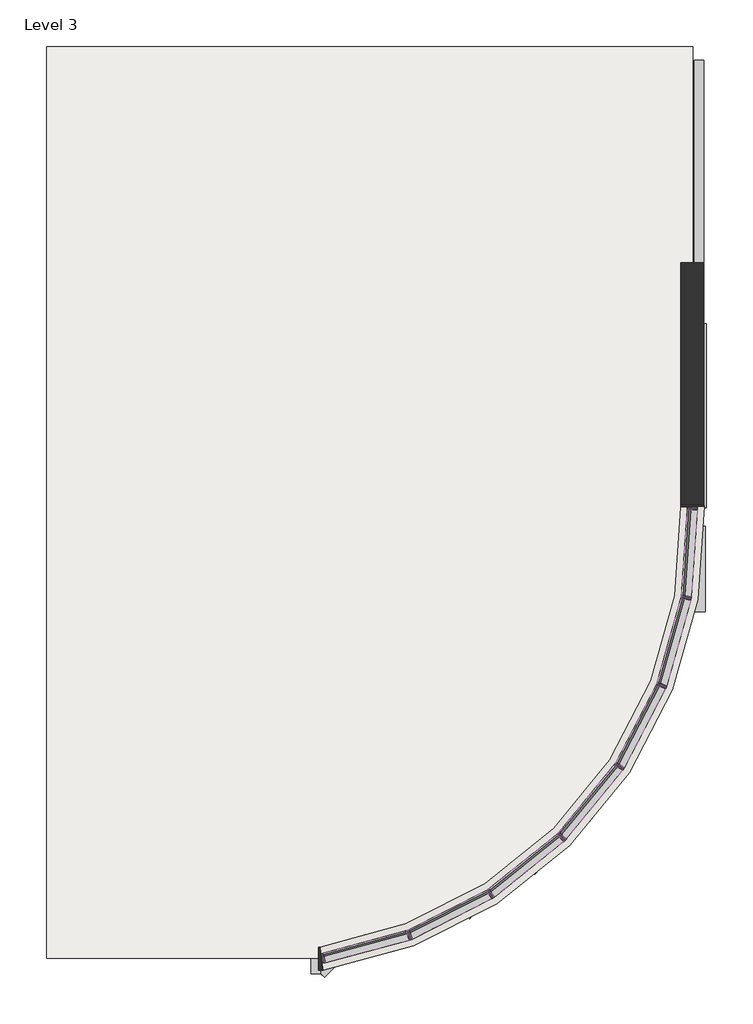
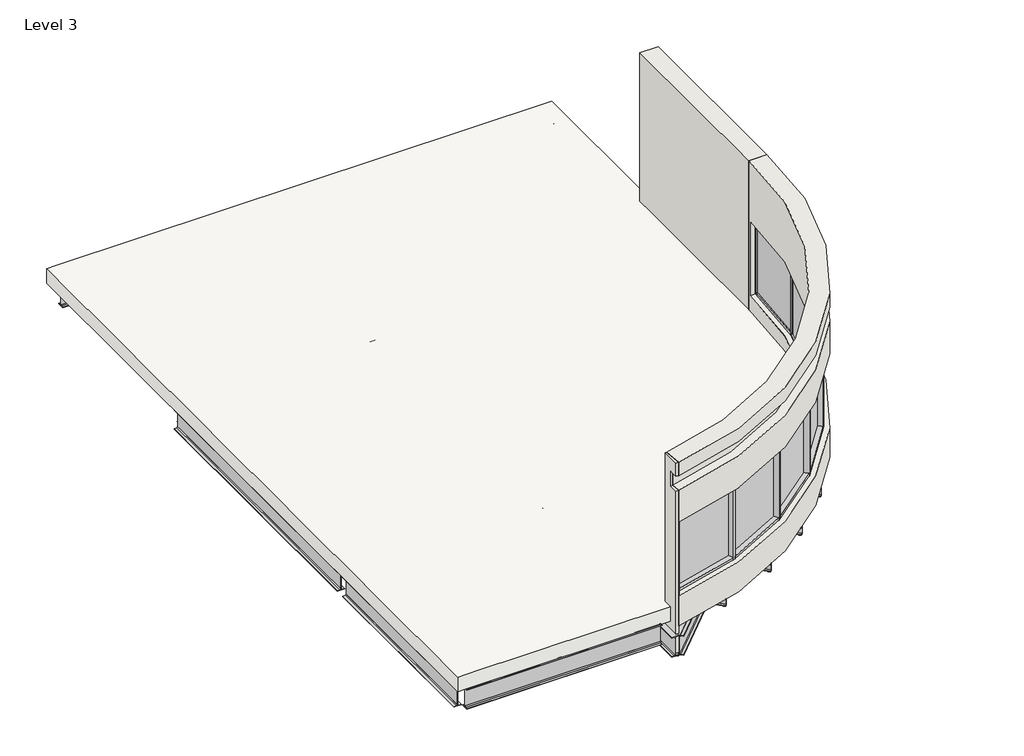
# One storey, incomplete: 22 beams, 22 members, 7 plates, 3 walls, 1 roof.
"""IFC4 building model written with IfcOpenShell, lengths in millimetres."""

from ifc_helpers import new_model, si_unit, frame, origin, place, context, project, spatial, polyline, circle_curve, faceted_brep, transform, mapped, element, save
from ifc_brep_helpers import plane_surface, cylinder_surface, revolved_surface, advanced_brep
from components import c_channel_c6x8_2_cf8d55a1, c_channel_c6x8_2_52b4a7a8, c_channel_c6x8_2_4cab7d2d, c_channel_c6x8_2_ec91256f, c_channel_c6x8_2_3719a647, c_channel_c6x8_2_7d483b76, w_wide_flange_w16x26_a72f614c, w_wide_flange_w16x26_9c3d3023, w_wide_flange_w16x26_148a8972, w_wide_flange_w16x26_0c83cf25, w_wide_flange_w16x26_0b9ed303, w_wide_flange_w16x26_0532e526, w_wide_flange_w16x26_7b0e4888, w_wide_flange_w16x26_9456430b, w_wide_flange_w16x26_394d27fb, w_wide_flange_w16x26_6db211b0, w_wide_flange_w24x68_473e50b6, w_wide_flange_w24x68_1052d64c, rectangular_mullion_50_x_150mm_8a6e4913, rectangular_mullion_50_x_150mm_e3e87f6c, rectangular_mullion_50_x_150mm_af4d71e1, rectangular_mullion_50_x_150mm_40297ad3, rectangular_mullion_50_x_150mm_4d330a12, system_panel_glazed_e4ec4e41, system_panel_glazed_5906122b

model = new_model("IFC4")

# Units and contexts
model_context = context("Model", 3, world=origin())
ifc_project = project(units=[si_unit("LENGTHUNIT", "METRE", prefix="MILLI")], contexts=[model_context])

# Site, building, storey
site = spatial("IfcSite", under=ifc_project)
building = spatial("IfcBuilding", under=site)
storey = spatial("IfcBuildingStorey", under=building, Name="Level 3", Elevation=53035.0)

# Beams
placement = place(None, origin())
c_channel_c6x8_2_shape = c_channel_c6x8_2_cf8d55a1(model_context)
element("IfcBeam", 1, ObjectType="C-Channel : C6X8.2", at=placement, inside=storey, context=model_context, shape_type="MappedRepresentation", body=[
    mapped(c_channel_c6x8_2_shape, transform((-5213.4523008, 1924.378114, 52958.8), x_axis=(0.7071067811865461, -0.7071067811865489, 0.0), y_axis=(0.7071067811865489, 0.7071067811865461, 0.0), z_axis=(0.0, 0.0, 1.0))),
])
c_channel_c6x8_2_2_shape = c_channel_c6x8_2_52b4a7a8(model_context)
element("IfcBeam", 2, ObjectType="C-Channel : C6X8.2", at=placement, inside=storey, context=model_context, shape_type="MappedRepresentation", body=[
    mapped(c_channel_c6x8_2_2_shape, transform((-9397.6765056, -2163.1833658, 52958.8), x_axis=(0.7071067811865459, -0.7071067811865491, 0.0), y_axis=(0.7071067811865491, 0.7071067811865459, 0.0), z_axis=(0.0, 0.0, 1.0))),
])
c_channel_c6x8_2_3_shape = c_channel_c6x8_2_4cab7d2d(model_context)
element("IfcBeam", 3, ObjectType="C-Channel : C6X8.2", at=placement, inside=storey, context=model_context, shape_type="MappedRepresentation", body=[
    mapped(c_channel_c6x8_2_3_shape, transform((-8326.2701207, 74.1245232, 52958.8), x_axis=(0.707106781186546, -0.707106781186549, 0.0), y_axis=(0.707106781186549, 0.707106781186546, 0.0), z_axis=(0.0, 0.0, 1.0))),
])
c_channel_c6x8_2_4_shape = c_channel_c6x8_2_ec91256f(model_context)
element("IfcBeam", 4, ObjectType="C-Channel : C6X8.2", at=placement, inside=storey, context=model_context, shape_type="MappedRepresentation", body=[
    mapped(c_channel_c6x8_2_4_shape, transform((-7491.7530218, 893.9645612, 52958.8), x_axis=(0.7071067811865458, -0.7071067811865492, 0.0), y_axis=(0.7071067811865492, 0.7071067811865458, 0.0), z_axis=(0.0, 0.0, 1.0))),
])
c_channel_c6x8_2_5_shape = c_channel_c6x8_2_3719a647(model_context)
element("IfcBeam", 5, ObjectType="C-Channel : C6X8.2", at=placement, inside=storey, context=model_context, shape_type="MappedRepresentation", body=[
    mapped(c_channel_c6x8_2_5_shape, transform((-6314.2389485, 1371.0374918, 52958.8), x_axis=(0.7071067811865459, -0.7071067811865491, 0.0), y_axis=(0.7071067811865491, 0.7071067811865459, 0.0), z_axis=(0.0, 0.0, 1.0))),
])
c_channel_c6x8_2_6_shape = c_channel_c6x8_2_7d483b76(model_context)
element("IfcBeam", 6, ObjectType="C-Channel : C6X8.2", at=placement, inside=storey, context=model_context, shape_type="MappedRepresentation", body=[
    mapped(c_channel_c6x8_2_6_shape, transform((-8818.0127286, -1088.4900059, 52958.8), x_axis=(0.707106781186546, -0.707106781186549, 0.0), y_axis=(0.707106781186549, 0.707106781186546, 0.0), z_axis=(0.0, 0.0, 1.0))),
])
w_wide_flange_w16x26_shape = w_wide_flange_w16x26_a72f614c(model_context)
element("IfcBeam", 7, ObjectType="W-Wide Flange : W16X26", at=placement, inside=storey, context=model_context, shape_type="MappedRepresentation", body=[
    mapped(w_wide_flange_w16x26_shape, transform((-7101.4313072, 2571.4992317, 52683.3191406), x_axis=(1.0, 0.0, 0.0), y_axis=(0.0, 1.0, 0.0), z_axis=(0.0, 0.0, 1.0))),
])
w_wide_flange_w16x26_2_shape = w_wide_flange_w16x26_9c3d3023(model_context)
element("IfcBeam", 8, ObjectType="W-Wide Flange : W16X26", at=placement, inside=storey, context=model_context, shape_type="MappedRepresentation", body=[
    mapped(w_wide_flange_w16x26_2_shape, transform((-9997.0313072, -1036.8683828, 52683.3191406), x_axis=(0.0, 1.0, 0.0), y_axis=(-1.0, 0.0, 0.0), z_axis=(0.0, 0.0, 1.0))),
])
w_wide_flange_w16x26_3_shape = w_wide_flange_w16x26_148a8972(model_context)
element("IfcBeam", 9, ObjectType="W-Wide Flange : W16X26", at=placement, inside=storey, context=model_context, shape_type="MappedRepresentation", body=[
    mapped(w_wide_flange_w16x26_3_shape, transform((-9997.0313072, 3981.9445582, 52683.3191406), x_axis=(0.0, 1.0, 0.0), y_axis=(-1.0, 0.0, 0.0), z_axis=(0.0, 0.0, 1.0))),
])
element("IfcBeam", 10, ObjectType="W-Wide Flange : W16X26", at=placement, inside=storey, context=model_context, shape_type="MappedRepresentation", body=[
    mapped(w_wide_flange_w16x26_3_shape, transform((-13959.4313072, 3981.9445582, 52772.2191406), x_axis=(0.0, 1.0, 0.0), y_axis=(-1.0, 0.0, 0.0), z_axis=(0.0, 0.0, 1.0))),
])
w_wide_flange_w16x26_4_shape = w_wide_flange_w16x26_0c83cf25(model_context)
element("IfcBeam", 11, ObjectType="W-Wide Flange : W16X26", at=placement, inside=storey, context=model_context, shape_type="MappedRepresentation", body=[
    mapped(w_wide_flange_w16x26_4_shape, transform((-9997.0313072, 8810.2376138, 52772.2191406), x_axis=(0.0, 1.0, 0.0), y_axis=(-1.0, 0.0, 0.0), z_axis=(0.0, 0.0, 1.0))),
])
element("IfcBeam", 12, ObjectType="W-Wide Flange : W16X26", at=placement, inside=storey, context=model_context, shape_type="MappedRepresentation", body=[
    mapped(w_wide_flange_w16x26_4_shape, transform((-4186.2521405, 8810.2376138, 52772.2191406), x_axis=(0.0, 1.0, 0.0), y_axis=(-1.0, 0.0, 0.0), z_axis=(0.0, 0.0, 1.0))),
])
w_wide_flange_w16x26_5_shape = w_wide_flange_w16x26_0b9ed303(model_context)
element("IfcBeam", 13, ObjectType="W-Wide Flange : W16X26", at=placement, inside=storey, context=model_context, shape_type="MappedRepresentation", body=[
    mapped(w_wide_flange_w16x26_5_shape, transform((-13959.4313072, -812.3054418, 52772.2191406), x_axis=(0.0, 1.0, 0.0), y_axis=(-1.0, 0.0, 0.0), z_axis=(0.0, 0.0, 1.0))),
])
w_wide_flange_w16x26_6_shape = w_wide_flange_w16x26_0532e526(model_context)
element("IfcBeam", 14, ObjectType="W-Wide Flange : W16X26", at=placement, inside=storey, context=model_context, shape_type="MappedRepresentation", body=[
    mapped(w_wide_flange_w16x26_6_shape, transform((-11978.2313072, -2770.5748862, 52772.2191406), x_axis=(1.0, 0.0, 0.0), y_axis=(0.0, 1.0, 0.0), z_axis=(0.0, 0.0, 1.0))),
])
w_wide_flange_w16x26_7_shape = w_wide_flange_w16x26_7b0e4888(model_context)
element("IfcBeam", 15, ObjectType="W-Wide Flange : W16X26", at=placement, inside=storey, context=model_context, shape_type="MappedRepresentation", body=[
    mapped(w_wide_flange_w16x26_7_shape, transform((-11978.2313072, 1145.9640027, 52772.2191406), x_axis=(1.0, 0.0, 0.0), y_axis=(0.0, 1.0, 0.0), z_axis=(0.0, 0.0, 1.0))),
])
element("IfcBeam", 16, ObjectType="W-Wide Flange : W16X26", at=placement, inside=storey, context=model_context, shape_type="MappedRepresentation", body=[
    mapped(w_wide_flange_w16x26_7_shape, transform((-11978.2313072, 6817.9251138, 52772.2191406), x_axis=(1.0, 0.0, 0.0), y_axis=(0.0, 1.0, 0.0), z_axis=(0.0, 0.0, 1.0))),
])
element("IfcBeam", 17, ObjectType="W-Wide Flange : W16X26", at=placement, inside=storey, context=model_context, shape_type="MappedRepresentation", body=[
    mapped(w_wide_flange_w16x26_7_shape, transform((-11978.2313072, 10802.5501138, 52772.2191406), x_axis=(1.0, 0.0, 0.0), y_axis=(0.0, 1.0, 0.0), z_axis=(0.0, 0.0, 1.0))),
])
w_wide_flange_w16x26_8_shape = w_wide_flange_w16x26_9456430b(model_context)
element("IfcBeam", 18, ObjectType="W-Wide Flange : W16X26", at=placement, inside=storey, context=model_context, shape_type="MappedRepresentation", body=[
    mapped(w_wide_flange_w16x26_8_shape, transform((-7101.4313072, 6817.9251138, 52772.2191406), x_axis=(1.0, 0.0, 0.0), y_axis=(0.0, 1.0, 0.0), z_axis=(0.0, 0.0, 1.0))),
])
w_wide_flange_w16x26_9_shape = w_wide_flange_w16x26_394d27fb(model_context)
element("IfcBeam", 19, ObjectType="W-Wide Flange : W16X26", at=placement, inside=storey, context=model_context, shape_type="MappedRepresentation", body=[
    mapped(w_wide_flange_w16x26_9_shape, transform((-7091.6417239, 10802.5501138, 52772.2191406), x_axis=(1.0, 0.0, 0.0), y_axis=(0.0, 1.0, 0.0), z_axis=(0.0, 0.0, 1.0))),
])
w_wide_flange_w16x26_10_shape = w_wide_flange_w16x26_6db211b0(model_context)
element("IfcBeam", 20, ObjectType="W-Wide Flange : W16X26", at=placement, inside=storey, context=model_context, shape_type="MappedRepresentation", body=[
    mapped(w_wide_flange_w16x26_10_shape, transform((-7101.4313072, -323.4221431, 52683.3191406), x_axis=(-0.7071896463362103, -0.707023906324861, 0.0), y_axis=(0.707023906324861, -0.7071896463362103, 0.0), z_axis=(0.0, 0.0, 1.0))),
])
w_wide_flange_w24x68_shape = w_wide_flange_w24x68_473e50b6(model_context)
element("IfcBeam", 21, ObjectType="W-Wide Flange : W24X68", at=placement, inside=storey, context=model_context, shape_type="MappedRepresentation", body=[
    mapped(w_wide_flange_w24x68_shape, transform((-4186.2521405, 5304.3121727, 52670.51), x_axis=(0.0, -1.0, 0.0), y_axis=(1.0, 0.0, 0.0), z_axis=(0.0, 0.0, 1.0))),
])
w_wide_flange_w24x68_2_shape = w_wide_flange_w24x68_1052d64c(model_context)
element("IfcBeam", 22, ObjectType="W-Wide Flange : W24X68", at=placement, inside=storey, context=model_context, shape_type="MappedRepresentation", body=[
    mapped(w_wide_flange_w24x68_2_shape, transform((-4205.8313072, 3181.0992317, 52670.51), x_axis=(0.0, -1.0, 0.0), y_axis=(1.0, 0.0, 0.0), z_axis=(0.0, 0.0, 1.0))),
])

# Members
rectangular_mullion_50_x_150mm_shape = rectangular_mullion_50_x_150mm_8a6e4913(model_context)
element("IfcMember", 23, ObjectType="Rectangular Mullion : 50 x 150mm", at=placement, inside=storey, context=model_context, shape_type="MappedRepresentation", body=[
    mapped(rectangular_mullion_50_x_150mm_shape, transform((-4288.8263556, 3900.6202348, 55168.8), x_axis=(0.0, 0.0, 1.0), y_axis=(0.997760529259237, -0.06688741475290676, 0.0), z_axis=(0.06688741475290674, 0.9977605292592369, 0.0))),
])
rectangular_mullion_50_x_150mm_2_shape = rectangular_mullion_50_x_150mm_e3e87f6c(model_context)
element("IfcMember", 24, ObjectType="Rectangular Mullion : 50 x 150mm", at=placement, inside=storey, context=model_context, shape_type="MappedRepresentation", body=[
    mapped(rectangular_mullion_50_x_150mm_2_shape, transform((-8605.6631722, -2548.1874023, 55168.8), x_axis=(0.0, 0.0, 1.0), y_axis=(0.2585707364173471, -0.9659923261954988, 0.0), z_axis=(0.9659923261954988, 0.2585707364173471, 0.0))),
])
rectangular_mullion_50_x_150mm_3_shape = rectangular_mullion_50_x_150mm_af4d71e1(model_context)
element("IfcMember", 25, ObjectType="Rectangular Mullion : 50 x 150mm", at=placement, inside=storey, context=model_context, shape_type="MappedRepresentation", body=[
    mapped(rectangular_mullion_50_x_150mm_3_shape, transform((-7370.4669288, -1928.6917353, 55168.8), x_axis=(0.0, 0.0, 1.0), y_axis=(0.45163327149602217, -0.8922036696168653, 0.0), z_axis=(0.8922036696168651, 0.4516332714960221, 0.0))),
])
element("IfcMember", 26, ObjectType="Rectangular Mullion : 50 x 150mm", at=placement, inside=storey, context=model_context, shape_type="MappedRepresentation", body=[
    mapped(rectangular_mullion_50_x_150mm_3_shape, transform((-6289.0069455, -1068.5005092, 55168.8), x_axis=(0.0, 0.0, 1.0), y_axis=(0.625402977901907, -0.7803019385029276, 0.0), z_axis=(0.7803019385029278, 0.6254029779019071, 0.0))),
])
element("IfcMember", 27, ObjectType="Rectangular Mullion : 50 x 150mm", at=placement, inside=storey, context=model_context, shape_type="MappedRepresentation", body=[
    mapped(rectangular_mullion_50_x_150mm_3_shape, transform((-5407.4809305, -4.359294, 55168.8), x_axis=(0.0, 0.0, 1.0), y_axis=(0.7724567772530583, -0.6350673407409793, 0.0), z_axis=(0.6350673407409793, 0.7724567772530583, 0.0))),
])
element("IfcMember", 28, ObjectType="Rectangular Mullion : 50 x 150mm", at=placement, inside=storey, context=model_context, shape_type="MappedRepresentation", body=[
    mapped(rectangular_mullion_50_x_150mm_3_shape, transform((-4763.5458314, 1218.2740236, 55168.8), x_axis=(0.0, 0.0, 1.0), y_axis=(0.8865128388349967, -0.46270399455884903, 0.0), z_axis=(0.462703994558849, 0.8865128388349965, 0.0))),
])
element("IfcMember", 29, ObjectType="Rectangular Mullion : 50 x 150mm", at=placement, inside=storey, context=model_context, shape_type="MappedRepresentation", body=[
    mapped(rectangular_mullion_50_x_150mm_3_shape, transform((-4384.7092086, 2547.1711055, 55168.8), x_axis=(0.0, 0.0, 1.0), y_axis=(0.9626989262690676, -0.2705749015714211, 0.0), z_axis=(0.2705749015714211, 0.9626989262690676, 0.0))),
])
element("IfcMember", 30, ObjectType="Rectangular Mullion : 50 x 150mm", at=placement, inside=storey, context=model_context, shape_type="MappedRepresentation", body=[
    mapped(rectangular_mullion_50_x_150mm_shape, transform((-9868.5681641, -2886.2338494, 53644.8), x_axis=(0.0, 0.0, -1.0), y_axis=(0.2585707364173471, -0.9659923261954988, 0.0), z_axis=(-0.9659923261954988, -0.2585707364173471, 0.0))),
])
element("IfcMember", 31, ObjectType="Rectangular Mullion : 50 x 150mm", at=placement, inside=storey, context=model_context, shape_type="MappedRepresentation", body=[
    mapped(rectangular_mullion_50_x_150mm_3_shape, transform((-8559.2082723, -2530.4323021, 53644.8), x_axis=(0.0, 0.0, -1.0), y_axis=(0.45163327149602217, -0.8922036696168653, 0.0), z_axis=(-0.8922036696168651, -0.4516332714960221, 0.0))),
])
element("IfcMember", 32, ObjectType="Rectangular Mullion : 50 x 150mm", at=placement, inside=storey, context=model_context, shape_type="MappedRepresentation", body=[
    mapped(rectangular_mullion_50_x_150mm_3_shape, transform((-7328.6542886, -1901.765829, 53644.8), x_axis=(0.0, 0.0, -1.0), y_axis=(0.625402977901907, -0.7803019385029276, 0.0), z_axis=(-0.7803019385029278, -0.6254029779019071, 0.0))),
])
element("IfcMember", 33, ObjectType="Rectangular Mullion : 50 x 150mm", at=placement, inside=storey, context=model_context, shape_type="MappedRepresentation", body=[
    mapped(rectangular_mullion_50_x_150mm_3_shape, transform((-6253.6227135, -1033.5540153, 53644.8), x_axis=(0.0, 0.0, -1.0), y_axis=(0.7724567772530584, -0.6350673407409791, 0.0), z_axis=(-0.6350673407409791, -0.7724567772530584, 0.0))),
])
element("IfcMember", 34, ObjectType="Rectangular Mullion : 50 x 150mm", at=placement, inside=storey, context=model_context, shape_type="MappedRepresentation", body=[
    mapped(rectangular_mullion_50_x_150mm_3_shape, transform((-5380.0366471, 37.1149465, 53644.8), x_axis=(0.0, 0.0, -1.0), y_axis=(0.8865128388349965, -0.46270399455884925, 0.0), z_axis=(-0.46270399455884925, -0.8865128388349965, 0.0))),
])
element("IfcMember", 35, ObjectType="Rectangular Mullion : 50 x 150mm", at=placement, inside=storey, context=model_context, shape_type="MappedRepresentation", body=[
    mapped(rectangular_mullion_50_x_150mm_3_shape, transform((-4745.213859, 1264.5043177, 53644.8), x_axis=(0.0, 0.0, -1.0), y_axis=(0.9626989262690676, -0.2705749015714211, 0.0), z_axis=(-0.2705749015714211, -0.9626989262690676, 0.0))),
])
element("IfcMember", 36, ObjectType="Rectangular Mullion : 50 x 150mm", at=placement, inside=storey, context=model_context, shape_type="MappedRepresentation", body=[
    mapped(rectangular_mullion_50_x_150mm_2_shape, transform((-4376.2726507, 2596.1825919, 53644.8), x_axis=(0.0, 0.0, -1.0), y_axis=(0.997760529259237, -0.06688741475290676, 0.0), z_axis=(-0.06688741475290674, -0.9977605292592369, 0.0))),
])
rectangular_mullion_50_x_150mm_4_shape = rectangular_mullion_50_x_150mm_40297ad3(model_context)
element("IfcMember", 37, ObjectType="Rectangular Mullion : 50 x 150mm", at=placement, inside=storey, context=model_context, shape_type="MappedRepresentation", body=[
    mapped(rectangular_mullion_50_x_150mm_4_shape, transform((-8581.513364, -2541.7231339, 53644.8), x_axis=(0.934099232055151, 0.35701347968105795, 0.0), y_axis=(0.35701347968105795, -0.934099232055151, 0.0), z_axis=(0.0, 0.0, -1.0))),
])
element("IfcMember", 38, ObjectType="Rectangular Mullion : 50 x 150mm", at=placement, inside=storey, context=model_context, shape_type="MappedRepresentation", body=[
    mapped(rectangular_mullion_50_x_150mm_4_shape, transform((-7348.1618371, -1917.4009035, 53644.8), x_axis=(0.8407542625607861, 0.5414169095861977, 0.0), y_axis=(0.5414169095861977, -0.8407542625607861, 0.0), z_axis=(0.0, 0.0, -1.0))),
])
element("IfcMember", 39, ObjectType="Rectangular Mullion : 50 x 150mm", at=placement, inside=storey, context=model_context, shape_type="MappedRepresentation", body=[
    mapped(rectangular_mullion_50_x_150mm_4_shape, transform((-6269.499397, -1052.8654347, 53644.8), x_axis=(0.7114940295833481, 0.7026921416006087, 0.0), y_axis=(0.7026921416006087, -0.7114940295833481, 0.0), z_axis=(0.0, 0.0, -1.0))),
])
element("IfcMember", 40, ObjectType="Rectangular Mullion : 50 x 150mm", at=placement, inside=storey, context=model_context, shape_type="MappedRepresentation", body=[
    mapped(rectangular_mullion_50_x_150mm_4_shape, transform((-5391.604247, 14.9521255, 53644.8), x_axis=(0.5518402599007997, 0.8339498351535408, 0.0), y_axis=(0.8339498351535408, -0.5518402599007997, 0.0), z_axis=(0.0, 0.0, -1.0))),
])
element("IfcMember", 41, ObjectType="Rectangular Mullion : 50 x 150mm", at=placement, inside=storey, context=model_context, shape_type="MappedRepresentation", body=[
    mapped(rectangular_mullion_50_x_150mm_4_shape, transform((-4751.9782315, 1240.4368445, 53644.8), x_axis=(0.3686130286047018, 0.9295829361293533, 0.0), y_axis=(0.9295829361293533, -0.3686130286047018, 0.0), z_axis=(0.0, 0.0, -1.0))),
])
element("IfcMember", 42, ObjectType="Rectangular Mullion : 50 x 150mm", at=placement, inside=storey, context=model_context, shape_type="MappedRepresentation", body=[
    mapped(rectangular_mullion_50_x_150mm_4_shape, transform((-4377.944836, 2571.2385786, 53644.8), x_axis=(0.16963941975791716, 0.9855061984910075, 0.0), y_axis=(0.9855061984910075, -0.16963941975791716, 0.0), z_axis=(0.0, 0.0, -1.0))),
])
rectangular_mullion_50_x_150mm_5_shape = rectangular_mullion_50_x_150mm_4d330a12(model_context)
element("IfcMember", 43, ObjectType="Rectangular Mullion : 50 x 150mm", at=placement, inside=storey, context=model_context, shape_type="MappedRepresentation", body=[
    mapped(rectangular_mullion_50_x_150mm_5_shape, transform((-4285.4819849, 3950.5082613, 53644.8), x_axis=(0.06688741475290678, 0.997760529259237, 0.0), y_axis=(0.997760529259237, -0.06688741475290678, 0.0), z_axis=(0.0, 0.0, -1.0))),
])
element("IfcMember", 44, ObjectType="Rectangular Mullion : 50 x 150mm", at=placement, inside=storey, context=model_context, shape_type="MappedRepresentation", body=[
    mapped(rectangular_mullion_50_x_150mm_5_shape, transform((-9916.8677804, -2899.1623862, 55168.8), x_axis=(-0.9659923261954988, -0.2585707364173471, 0.0), y_axis=(0.2585707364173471, -0.9659923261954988, 0.0), z_axis=(0.0, 0.0, 1.0))),
])

# Plates
system_panel_glazed_shape = system_panel_glazed_e4ec4e41(model_context)
element("IfcPlate", 45, ObjectType="System Panel : Glazed", at=placement, inside=storey, context=model_context, shape_type="MappedRepresentation", body=[
    mapped(system_panel_glazed_shape, transform((-9237.1156681, -2717.2106259, 53694.8), x_axis=(0.9659923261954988, 0.2585707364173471, 0.0), y_axis=(-0.2585707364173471, 0.9659923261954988, 0.0), z_axis=(0.0, 0.0, 1.0))),
])
element("IfcPlate", 46, ObjectType="System Panel : Glazed", at=placement, inside=storey, context=model_context, shape_type="MappedRepresentation", body=[
    mapped(system_panel_glazed_shape, transform((-4332.5495031, 3248.4014133, 53694.8), x_axis=(0.06688741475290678, 0.997760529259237, 0.0), y_axis=(-0.997760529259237, 0.06688741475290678, 0.0), z_axis=(0.0, 0.0, 1.0))),
])
system_panel_glazed_2_shape = system_panel_glazed_5906122b(model_context)
element("IfcPlate", 47, ObjectType="System Panel : Glazed", at=placement, inside=storey, context=model_context, shape_type="MappedRepresentation", body=[
    mapped(system_panel_glazed_2_shape, transform((-7964.8376006, -2229.5620187, 53694.8), x_axis=(0.8922036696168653, 0.45163327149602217, 0.0), y_axis=(-0.45163327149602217, 0.8922036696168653, 0.0), z_axis=(0.0, 0.0, 1.0))),
])
element("IfcPlate", 48, ObjectType="System Panel : Glazed", at=placement, inside=storey, context=model_context, shape_type="MappedRepresentation", body=[
    mapped(system_panel_glazed_2_shape, transform((-6808.8306171, -1485.1331691, 53694.8), x_axis=(0.7803019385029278, 0.625402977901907, 0.0), y_axis=(-0.625402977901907, 0.7803019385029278, 0.0), z_axis=(0.0, 0.0, 1.0))),
])
element("IfcPlate", 49, ObjectType="System Panel : Glazed", at=placement, inside=storey, context=model_context, shape_type="MappedRepresentation", body=[
    mapped(system_panel_glazed_2_shape, transform((-5830.551822, -518.9566546, 53694.8), x_axis=(0.6350673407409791, 0.7724567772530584, 0.0), y_axis=(-0.7724567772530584, 0.6350673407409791, 0.0), z_axis=(0.0, 0.0, 1.0))),
])
element("IfcPlate", 50, ObjectType="System Panel : Glazed", at=placement, inside=storey, context=model_context, shape_type="MappedRepresentation", body=[
    mapped(system_panel_glazed_2_shape, transform((-5071.7912393, 627.694485, 53694.8), x_axis=(0.46270399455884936, 0.8865128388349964, 0.0), y_axis=(-0.8865128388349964, 0.46270399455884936, 0.0), z_axis=(0.0, 0.0, 1.0))),
])
element("IfcPlate", 51, ObjectType="System Panel : Glazed", at=placement, inside=storey, context=model_context, shape_type="MappedRepresentation", body=[
    mapped(system_panel_glazed_2_shape, transform((-4564.9615338, 1905.8377116, 53694.8), x_axis=(0.2705749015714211, 0.9626989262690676, 0.0), y_axis=(-0.9626989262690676, 0.2705749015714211, 0.0), z_axis=(0.0, 0.0, 1.0))),
])

# Roof
element("IfcRoof", 52, ObjectType="Generic - 300mm", at=placement, inside=storey, context=model_context, shape_type="AdvancedBrep", body=[
    advanced_brep(
    [(-14079.2313072, -2890.3748862, 53035.2), (-14079.2313072, 10922.3501138, 53035.2), (-13914.2313072, 10922.3501138, 53035.2), (-4280.7679666, 10922.3501138, 53035.2), (-4280.7679666, 10757.3501138, 53035.2), (-4280.7679666, 7995.8501138, 53035.2), (-4280.7679666, 7642.9501138, 53035.2), (-4280.7679666, 3984.1445632, 53035.2), (-4280.7679666, 3705.8434908, 53035.2), (-9861.6935193, -2890.3748862, 53035.2), (-9917.6562931, -2890.3748862, 53035.2), (-9951.8313072, -2890.3748862, 53035.2), (-13914.2313072, -2890.3748862, 53035.2), (-14079.2313072, 10922.3501138, 53335.2), (-14079.2313072, -2890.3748862, 53335.2), (-13914.2313072, -2890.3748862, 53335.2), (-9951.8313072, -2890.3748862, 53335.2), (-9917.6562931, -2890.3748862, 53335.2), (-9861.6935193, -2890.3748862, 53335.2), (-4280.7679666, 3705.8434908, 53335.2), (-4280.7679666, 3984.1445632, 53335.2), (-4280.7679666, 7642.9501138, 53335.2), (-4280.7679666, 7995.8501138, 53335.2), (-4280.7679666, 10757.3501138, 53335.2), (-4280.7679666, 10922.3501138, 53335.2), (-13914.2313072, 10922.3501138, 53335.2)],
    [
        (0, 1),
        (1, 2),
        (2, 3),
        (3, 4),
        (4, 5),
        (5, 6),
        (6, 7),
        (7, 8),
        (8, 9, circle_curve(frame((-10969.3383655, 3705.8434908, 53035.2), z_axis=(0.0, 0.0, -1.0), x_axis=(1.0, 0.0, 0.0)), 6688.570399)),
        (9, 10),
        (10, 11),
        (11, 12),
        (12, 0),
        (13, 14),
        (14, 15),
        (15, 16),
        (16, 17),
        (17, 18),
        (18, 19, circle_curve(frame((-10969.3383655, 3705.8434908, 53335.2), z_axis=(0.0, 0.0, 1.0), x_axis=(1.0, 0.0, 0.0)), 6688.570399)),
        (19, 20),
        (20, 21),
        (21, 22),
        (22, 23),
        (23, 24),
        (24, 25),
        (25, 13),
        (13, 1),
        (0, 14),
        (24, 3),
        (9, 18),
        (19, 8),
    ],
    [
        plane_surface(frame((-14079.2313072, -2890.3748862, 53035.2), z_axis=(0.0, 0.0, -1.0), x_axis=(1.0, 0.0, 0.0))),
        plane_surface(frame((-14079.2313072, -2890.3748862, 53335.2), z_axis=(0.0, 0.0, 1.0), x_axis=(1.0, 0.0, 0.0))),
        plane_surface(frame((-14079.2313072, 10922.3501138, 7315.2), z_axis=(-1.0, 0.0, 0.0), x_axis=(0.0, -1.0, 0.0))),
        plane_surface(frame((-4280.7679666, 10922.3501138, 7315.2), z_axis=(0.0, 1.0, 0.0), x_axis=(-1.0, 0.0, 0.0))),
        plane_surface(frame((-14079.2313072, -2890.3748862, 7315.2), z_axis=(0.0, -1.0, 0.0), x_axis=(1.0, 0.0, 0.0))),
        plane_surface(frame((-4280.7679666, 3705.8434908, 7315.2), z_axis=(1.0, 0.0, 0.0), x_axis=(0.0, 1.0, 0.0))),
        cylinder_surface(frame((-10969.3383655, 3705.8434908, 7315.2), z_axis=(0.0, 0.0, 1.0), x_axis=(1.0, 0.0, 0.0)), 6688.570399),
    ],
    [
        (0, [[1, 2, 3, 4, 5, 6, 7, 8, 9, 10, 11, 12, 13]]),
        (1, [[14, 15, 16, 17, 18, 19, 20, 21, 22, 23, 24, 25, 26]]),
        (2, [[-14, 27, -1, 28]]),
        (3, [[-26, -25, 29, -3, -2, -27]]),
        (4, [[-18, -17, -16, -15, -28, -13, -12, -11, -10, 30]]),
        (5, [[-24, -23, -22, -21, -20, 31, -8, -7, -6, -5, -4, -29]]),
        (6, [[-19, -30, -9, -31]]),
    ],
),
])

# Walls
element("IfcWall", 53, ObjectType="Exterior - Brick on Mtl. Stud", at=placement, inside=storey, context=model_context, shape_type="Brep", body=[
    faceted_brep([(-4110.1063072, 7642.9501138, 56388.0), (-4110.1063072, 3987.6956653, 56388.0), (-4110.1063072, 3987.6956653, 56116.5), (-4110.1063072, 7642.9501138, 56116.5), (-4110.1063072, 3987.6956653, 53035.2), (-4110.1063072, 5078.0001138, 53035.2), (-4110.1063072, 5205.0501138, 53035.2), (-4110.1063072, 7642.9501138, 53035.2), (-4110.1063072, 7642.9501138, 55816.5), (-4110.1063072, 5205.0501138, 55816.5), (-4110.1063072, 5078.0001138, 55816.5), (-4110.1063072, 3987.6956653, 55816.5), (-4463.0063072, 3980.3525752, 56388.0), (-4463.0063072, 7642.9501138, 56388.0), (-4463.0063072, 7642.9501138, 53335.2), (-4463.0063072, 3980.3525752, 53335.2), (-4280.7679666, 3984.1445632, 53035.2), (-4280.7679666, 7642.9501138, 53035.2), (-4280.7679666, 7642.9501138, 53335.2), (-4280.7679666, 3984.1445632, 53335.2), (-4286.5552995, 3984.0241412, 55816.5), (-4286.5563072, 3984.0241202, 56116.5), (-4286.5563072, 6807.9501138, 55816.5), (-4286.5563072, 6807.9501138, 56116.5), (-4286.5563072, 7642.9501138, 55816.5), (-4286.5563072, 7642.9501138, 56116.5)], [[[0, 1, 2, 3]], [[4, 5, 6, 7, 8, 9, 10, 11]], [[12, 13, 14, 15]], [[7, 6, 5, 4, 16, 17]], [[1, 0, 13, 12]], [[15, 14, 18, 19]], [[16, 19, 18, 17]], [[1, 12, 15, 19, 16, 4, 11, 20, 21, 2]], [[22, 23, 21, 20]], [[22, 20, 11, 10, 9, 8, 24]], [[21, 23, 25, 3, 2]], [[23, 22, 24, 25]], [[13, 0, 3, 25, 24, 8, 7, 17, 18, 14]]]),
])
element("IfcWall", 54, ObjectType="Exterior - Brick on Mtl. Stud", at=placement, inside=storey, context=model_context, shape_type="AdvancedBrep", body=[
    advanced_brep(
    [(-4463.0063072, 3980.3525752, 56388.0), (-9930.9127269, -2722.9498862, 56388.0), (-9902.9706902, -3075.8498862, 56388.0), (-4110.1063072, 3987.6956653, 56388.0), (-4110.1063072, 3987.6956653, 53035.2), (-9902.9706902, -3075.8498862, 53035.2), (-9917.6562931, -2890.3748862, 53035.2), (-9861.6935193, -2890.3748862, 53035.2), (-4280.7679666, 3705.8434908, 53035.2), (-4280.7679666, 3984.1445632, 53035.2), (-4463.0063072, 3980.3525752, 53335.2), (-9930.9127269, -2722.9498862, 53335.2), (-9930.9127269, -2722.9498862, 53644.8), (-4461.5765454, 3944.0622617, 53644.8), (-4461.5765454, 3944.0622617, 55168.8), (-9930.9127269, -2722.9498862, 55168.8), (-9902.9706902, -3075.8498862, 56116.5), (-4110.1063072, 3987.6956653, 56116.5), (-4110.1063072, 3987.6956653, 55168.8), (-4110.1063072, 3987.6956653, 55225.8), (-4110.1063072, 3987.6956653, 55816.5), (-9902.9706902, -3075.8498862, 55816.5), (-9902.9706902, -3075.8498862, 55225.8), (-9902.9706902, -3075.8498862, 55168.8), (-9889.0643801, -3073.6486137, 55168.8), (-4108.9127423, 3956.9716367, 55168.8), (-4108.9127423, 3956.9716367, 53644.8), (-9889.0643801, -3073.6486137, 53644.8), (-9917.9490912, -2886.6769293, 55168.8), (-9917.0521039, -2898.0056241, 55168.8), (-9917.0521039, -2898.0056241, 53644.8), (-9917.9490912, -2886.6769293, 53644.8), (-9917.6562931, -2890.3748862, 53335.2), (-9916.9405532, -2899.4144775, 55816.5), (-9916.9405532, -2899.4144775, 56116.5), (-4280.7679666, 3705.8434908, 53335.2), (-9861.6935193, -2890.3748862, 53335.2), (-4280.7679666, 3984.1445632, 53335.2), (-4286.5563072, 3984.0483485, 55816.5), (-4286.5563072, 3984.0483485, 56116.5), (-4297.9736186, 3950.0510009, 55168.8), (-4272.9903512, 3950.9655217, 55168.8), (-9914.9007906, -2911.5066542, 55168.8), (-4297.9736186, 3950.0510009, 53644.8), (-4272.9903512, 3950.9655217, 53644.8), (-9914.9007906, -2911.5066542, 53644.8)],
    [
        (0, 1, circle_curve(frame((-10969.3383655, 3705.8434908, 56388.0), z_axis=(0.0, 0.0, -1.0), x_axis=(1.0, 0.0, 0.0)), 6512.120399)),
        (1, 2),
        (2, 3, circle_curve(frame((-10969.3383655, 3705.8434908, 56388.0), z_axis=(0.0, 0.0, 1.0), x_axis=(1.0, 0.0, 0.0)), 6865.020399)),
        (3, 0),
        (4, 5, circle_curve(frame((-10969.3383655, 3705.8434908, 53035.2), z_axis=(0.0, 0.0, -1.0), x_axis=(1.0, 0.0, 0.0)), 6865.020399)),
        (5, 6),
        (6, 7),
        (7, 8, circle_curve(frame((-10969.3383655, 3705.8434908, 53035.2), z_axis=(0.0, 0.0, 1.0), x_axis=(1.0, 0.0, 0.0)), 6688.570399)),
        (8, 9),
        (9, 4),
        (0, 10),
        (10, 11, circle_curve(frame((-10969.3383655, 3705.8434908, 53335.2), z_axis=(0.0, 0.0, -1.0), x_axis=(1.0, 0.0, 0.0)), 6512.120399)),
        (11, 12),
        (12, 13, circle_curve(frame((-10969.3383655, 3705.8434908, 53644.8), z_axis=(0.0, 0.0, 1.0), x_axis=(1.0, 0.0, 0.0)), 6512.120399)),
        (13, 14),
        (14, 15, circle_curve(frame((-10969.3383655, 3705.8434908, 55168.8), z_axis=(0.0, 0.0, -1.0), x_axis=(1.0, 0.0, 0.0)), 6512.120399)),
        (15, 1),
        (2, 16),
        (16, 17, circle_curve(frame((-10969.3383655, 3705.8434908, 56116.5), z_axis=(0.0, 0.0, 1.0), x_axis=(1.0, 0.0, 0.0)), 6865.020399)),
        (17, 3),
        (4, 18),
        (18, 19),
        (19, 20),
        (20, 21, circle_curve(frame((-10969.3383655, 3705.8434908, 55816.5), z_axis=(0.0, 0.0, -1.0), x_axis=(1.0, 0.0, 0.0)), 6865.020399)),
        (21, 22),
        (22, 23),
        (23, 5),
        (24, 25, circle_curve(frame((-10969.3383655, 3705.8434908, 55168.8), z_axis=(0.0, 0.0, 1.0), x_axis=(1.0, 0.0, 0.0)), 6865.020399)),
        (25, 26),
        (26, 27, circle_curve(frame((-10969.3383655, 3705.8434908, 53644.8), z_axis=(0.0, 0.0, -1.0), x_axis=(1.0, 0.0, 0.0)), 6865.020399)),
        (27, 24),
        (15, 28),
        (28, 29),
        (29, 30),
        (30, 31),
        (31, 12),
        (11, 32),
        (32, 6),
        (21, 33),
        (33, 34),
        (34, 16),
        (35, 36, circle_curve(frame((-10969.3383655, 3705.8434908, 53335.2), z_axis=(0.0, 0.0, -1.0), x_axis=(1.0, 0.0, 0.0)), 6688.570399)),
        (36, 32),
        (10, 37),
        (37, 35),
        (36, 7),
        (8, 35),
        (37, 9),
        (38, 33, circle_curve(frame((-10969.3383655, 3705.8434908, 55816.5), z_axis=(0.0, 0.0, -1.0), x_axis=(1.0, 0.0, 0.0)), 6688.570399)),
        (20, 38),
        (34, 39, circle_curve(frame((-10969.3383655, 3705.8434908, 56116.5), z_axis=(0.0, 0.0, 1.0), x_axis=(1.0, 0.0, 0.0)), 6688.570399)),
        (39, 17),
        (38, 39),
        (14, 40),
        (40, 41),
        (41, 25),
        (24, 42),
        (42, 29),
        (13, 43),
        (43, 44),
        (44, 26),
        (30, 45),
        (45, 27),
    ],
    [
        plane_surface(frame((-4457.2179666, 3705.8434908, 56388.0), z_axis=(0.0, 0.0, 1.0), x_axis=(0.0, -1.0, 0.0))),
        plane_surface(frame((-4457.2179666, 3705.8434908, 53035.2), z_axis=(0.0, 0.0, -1.0), x_axis=(0.0, 1.0, 0.0))),
        revolved_surface(polyline([(-4457.217966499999, 3705.8434908, 53335.2), (-4457.217966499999, 3705.8434908, 56388.0)]), (-10969.3383655, 3705.8434908, 53035.2), (0.0, 0.0, -1.0)),
        cylinder_surface(frame((-10969.3383655, 3705.8434908, 53035.2), z_axis=(0.0, 0.0, 1.0), x_axis=(1.0, 0.0, 0.0)), 6865.020399),
        plane_surface(frame((-9930.9127269, -2722.9498862, 53035.0), z_axis=(-0.9968800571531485, -0.07893130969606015, 0.0), x_axis=(0.07893130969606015, -0.9968800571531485, 0.0))),
        plane_surface(frame((-14079.2313072, -2890.3748862, 53335.2), z_axis=(0.0, 0.0, -1.0), x_axis=(1.0, 0.0, 0.0))),
        plane_surface(frame((-14079.2313072, -2890.3748862, 7315.2), z_axis=(0.0, 1.0, 0.0), x_axis=(1.0, 0.0, 0.0))),
        plane_surface(frame((-4280.7679666, 3705.8434908, 7315.2), z_axis=(-1.0, 0.0, 0.0), x_axis=(0.0, 1.0, 0.0))),
        revolved_surface(polyline([(-4280.7679665, 3705.8434908, 53335.2), (-4280.7679665, 3705.8434908, 53035.2)]), (-10969.3383655, 3705.8434908, 7315.2), (0.0, 0.0, 1.0)),
        plane_surface(frame((-10116.8313072, -8100.5498862, 55816.5), z_axis=(0.0, 0.0, 1.0), x_axis=(1.0, 0.0, 0.0))),
        plane_surface(frame((-10116.8313072, -8100.5498862, 56116.5), z_axis=(0.0, 0.0, -1.0), x_axis=(1.0, 0.0, 0.0))),
        cylinder_surface(frame((-10969.3383655, 3705.8434908, 10058.4), z_axis=(0.0, 0.0, 1.0), x_axis=(1.0, 0.0, 0.0)), 6688.570399),
        plane_surface(frame((-4110.1063072, 3987.6956653, 53035.0), z_axis=(-0.020803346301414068, 0.9997835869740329, 0.0), x_axis=(-0.9997835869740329, -0.020803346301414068, 0.0))),
        plane_surface(frame((-6056.7292419, -333.0072309, 55168.8), z_axis=(0.0, 0.0, -1.0), x_axis=(0.6350673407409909, 0.7724567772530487, 0.0))),
        plane_surface(frame((-4613.8745437, 3938.4873432, 54406.8), z_axis=(0.03658083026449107, -0.9993306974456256, 0.0), x_axis=(0.0, 0.0, -1.0))),
        plane_surface(frame((-6056.7292419, -333.0072309, 53644.8), z_axis=(0.0, 0.0, 1.0000000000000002), x_axis=(-0.6350673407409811, -0.7724567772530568, 0.0))),
        plane_surface(frame((-9968.5779741, -2574.643926, 54406.8), z_axis=(0.9875414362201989, 0.15735918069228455, 0.0), x_axis=(0.0, 0.0, 1.0))),
    ],
    [
        (0, [[1, 2, 3, 4]]),
        (1, [[5, 6, 7, 8, 9, 10]]),
        (2, [[-1, 11, 12, 13, 14, 15, 16, 17]]),
        (3, [[-3, 18, 19, 20]]),
        (3, [[-5, 21, 22, 23, 24, 25, 26, 27], [28, 29, 30, 31]]),
        (4, [[-2, -17, 32, 33, 34, 35, 36, -13, 37, 38, -6, -27, -26, -25, 39, 40, 41, -18]]),
        (5, [[42, 43, -37, -12, 44, 45]]),
        (6, [[46, -7, -38, -43]]),
        (7, [[47, -45, 48, -9]]),
        (8, [[-42, -47, -8, -46]]),
        (9, [[49, -39, -24, 50]]),
        (10, [[51, 52, -19, -41]]),
        (11, [[-51, -40, -49, 53]]),
        (12, [[-4, -20, -52, -53, -50, -23, -22, -21, -10, -48, -44, -11]]),
        (13, [[-16, 54, 55, 56, -28, 57, 58, -33, -32]]),
        (14, [[-15, 59, 60, 61, -29, -56, -55, -54]]),
        (15, [[-14, -36, -35, 62, 63, -30, -61, -60, -59]]),
        (16, [[-31, -63, -62, -34, -58, -57]]),
    ],
),
])
element("IfcWall", 55, ObjectType="Exterior - Brick on Mtl. Stud", at=placement, inside=storey, context=model_context, shape_type="AdvancedBrep", body=[
    advanced_brep(
    [(-9930.9127269, -2722.9498862, 52425.6), (-9951.8313072, -2722.9498862, 52425.6), (-9951.8313072, -2722.9498862, 53035.2), (-9930.9127269, -2722.9498862, 53035.2), (-9951.8313072, -2722.9498862, 56388.0), (-9930.9127269, -2722.9498862, 56388.0), (-9930.9127269, -2722.9498862, 53335.2), (-9951.8313072, -2722.9498862, 53335.2), (-9951.8313072, -2722.9498862, 53644.8), (-9951.8313072, -3075.8498862, 52425.6), (-9902.9706902, -3075.8498862, 52425.6), (-9902.9706902, -3075.8498862, 55816.5), (-9951.8313072, -3075.8498862, 55816.5), (-9902.9706902, -3075.8498862, 56388.0), (-9951.8313072, -3075.8498862, 56388.0), (-9951.8313072, -3075.8498862, 56116.5), (-9902.9706902, -3075.8498862, 56116.5), (-9916.9405532, -2899.4144775, 56116.5), (-9916.9405532, -2899.4144775, 55816.5), (-9917.6562931, -2890.3748862, 53035.2), (-9917.6562931, -2890.3748862, 53335.2), (-9951.8313072, -2904.8791149, 55816.5), (-9951.8313072, -2904.8791149, 56116.5), (-9951.8313072, -2725.3748862, 53335.2), (-9951.8313072, -2890.3748862, 53335.2), (-9951.8313072, -2890.3748862, 53035.2), (-9951.8313072, -2725.3748862, 53035.2)],
    [
        (0, 1),
        (1, 2),
        (2, 3),
        (3, 0),
        (4, 5),
        (5, 6),
        (6, 7),
        (7, 8),
        (8, 4),
        (9, 10),
        (10, 11),
        (11, 12),
        (12, 9),
        (13, 14),
        (14, 15),
        (15, 16),
        (16, 13),
        (0, 10),
        (9, 1),
        (4, 14),
        (13, 5),
        (16, 17),
        (17, 18),
        (18, 11),
        (3, 19),
        (19, 20),
        (20, 6),
        (12, 21),
        (21, 22),
        (22, 15),
        (7, 23),
        (23, 24),
        (24, 25),
        (25, 26),
        (26, 2),
        (18, 21, circle_curve(frame((-10969.3383655, 3705.8434908, 55816.5), z_axis=(0.0, 0.0, -1.0), x_axis=(1.0, 0.0, 0.0)), 6688.570399)),
        (17, 22, circle_curve(frame((-10969.3383655, 3705.8434908, 56116.5), z_axis=(0.0, 0.0, -1.0), x_axis=(1.0, 0.0, 0.0)), 6688.570399)),
        (25, 19),
        (20, 24),
    ],
    [
        plane_surface(frame((-9915.2280922, -2722.9498862, 52425.6), z_axis=(0.0, 1.0, 0.0), x_axis=(-1.0, 0.0, 0.0))),
        plane_surface(frame((-9915.2280922, -3075.8498862, 52425.6), z_axis=(0.0, -1.0, 0.0), x_axis=(1.0, 0.0, 0.0))),
        plane_surface(frame((-9916.848977, -2722.9498862, 52425.6), z_axis=(0.0, 0.0, -1.0), x_axis=(0.0, -1.0, 0.0))),
        plane_surface(frame((-10126.8313072, -2722.9498862, 56388.0), z_axis=(0.0, 0.0, 1.0), x_axis=(0.0, -1.0, 0.0))),
        plane_surface(frame((-9902.9706902, -3075.8498862, 53035.0), z_axis=(0.9968800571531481, 0.07893130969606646, 0.0), x_axis=(-0.07893130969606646, 0.9968800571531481, 0.0))),
        plane_surface(frame((-9951.8313072, -8228.3998862, 45720.0), z_axis=(-1.0, 0.0, 0.0), x_axis=(0.0, 1.0, 0.0))),
        plane_surface(frame((-10116.8313072, -8100.5498862, 55816.5), z_axis=(0.0, 0.0, 1.0), x_axis=(1.0, 0.0, 0.0))),
        cylinder_surface(frame((-10969.3383655, 3705.8434908, 10058.4), z_axis=(0.0, 0.0, 1.0), x_axis=(1.0, 0.0, 0.0)), 6688.570399),
        plane_surface(frame((-10116.8313072, -8100.5498862, 56116.5), z_axis=(0.0, 0.0, -1.0), x_axis=(1.0, 0.0, 0.0))),
        plane_surface(frame((-14079.2313072, -2890.3748862, 53035.2), z_axis=(0.0, 0.0, 1.0), x_axis=(1.0, 0.0, 0.0))),
        plane_surface(frame((-14079.2313072, -2890.3748862, 53335.2), z_axis=(0.0, 0.0, -1.0), x_axis=(1.0, 0.0, 0.0))),
        plane_surface(frame((-14079.2313072, -2890.3748862, 7315.2), z_axis=(0.0, 1.0, 0.0), x_axis=(1.0, 0.0, 0.0))),
    ],
    [
        (0, [[1, 2, 3, 4]]),
        (0, [[5, 6, 7, 8, 9]]),
        (1, [[10, 11, 12, 13]]),
        (1, [[14, 15, 16, 17]]),
        (2, [[-1, 18, -10, 19]]),
        (3, [[-5, 20, -14, 21]]),
        (4, [[-21, -17, 22, 23, 24, -11, -18, -4, 25, 26, 27, -6]]),
        (5, [[-19, -13, 28, 29, 30, -15, -20, -9, -8, 31, 32, 33, 34, 35, -2]]),
        (6, [[36, -28, -12, -24]]),
        (7, [[-36, -23, 37, -29]]),
        (8, [[-37, -22, -16, -30]]),
        (9, [[38, -25, -3, -35, -34]]),
        (10, [[39, -32, -31, -7, -27]]),
        (11, [[-38, -33, -39, -26]]),
    ],
),
])

save(model, "model.ifc")
